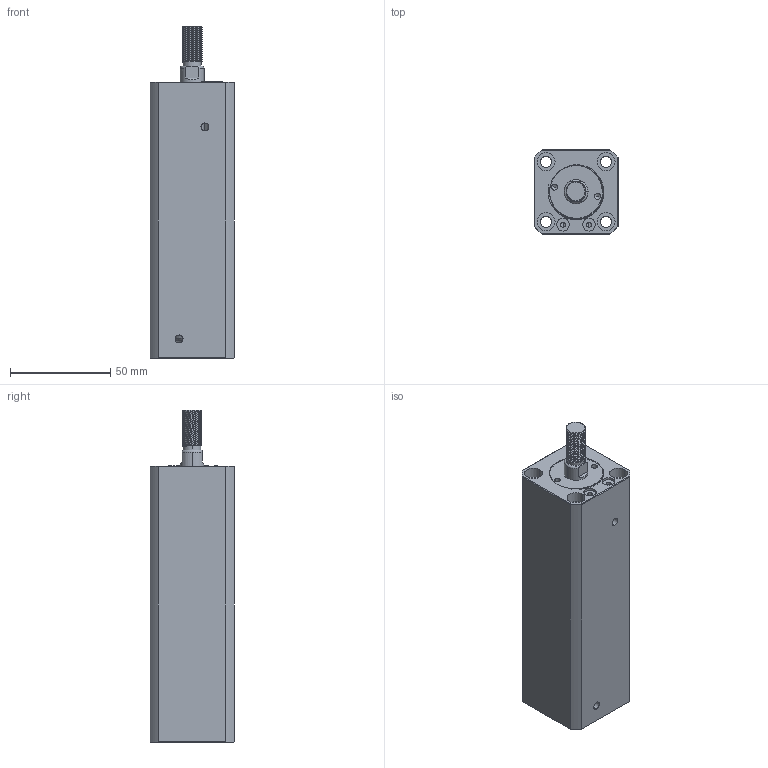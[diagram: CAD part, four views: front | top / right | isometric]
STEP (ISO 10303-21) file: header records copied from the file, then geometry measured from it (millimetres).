
FILE_DESCRIPTION (( 'STEP AP214' ), '1' );
FILE_NAME ('chtb-sdma20x95w_asm.STEP', '2018-05-18T04:44:38', ( 'Windows' ), ( 'Microsoft' ), 'SwSTEP 2.0', 'SolidWorks 2015', '' );
FILE_SCHEMA (( 'AUTOMOTIVE_DESIGN' ));
Length unit declared in the file: millimetre
Products named in the file (4): QG_3; CHTB-SDMA20X95WHSG; CHTB-SDMA20X95NBT; chtb-sdma20x95w_asm
Assembly tree (3 placements, depth 2):
  chtb-sdma20x95w_asm
    CHTB-SDMA20X95NBT
    CHTB-SDMA20X95WHSG
    QG_3
Bounding box: 42 x 42 x 166 mm (x, y, z)
Volume: 204768.3 mm3; surface area: 57214.5 mm2
Topology: 3 solids, 3 shells, 247 faces, 671 edges, 446 vertices
Faces by surface type: cylinder 144, plane 48, torus 25, bspline 23, cone 7
Entity records: 14895 total; most frequent: CARTESIAN_POINT 9018, ORIENTED_EDGE 1334, DIRECTION 1075, EDGE_CURVE 667, VERTEX_POINT 446, AXIS2_PLACEMENT_3D 441, EDGE_LOOP 285, ADVANCED_FACE 247
